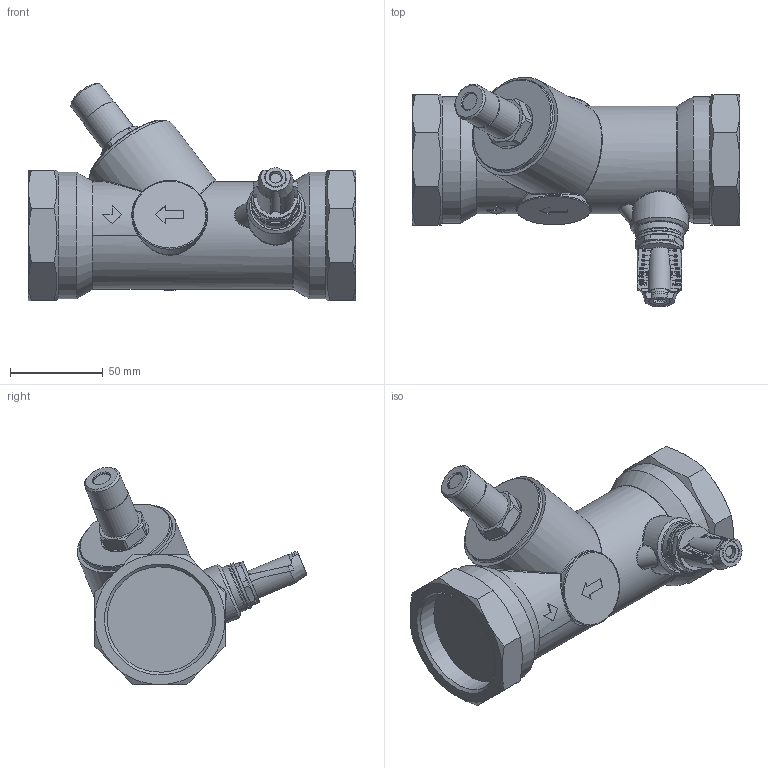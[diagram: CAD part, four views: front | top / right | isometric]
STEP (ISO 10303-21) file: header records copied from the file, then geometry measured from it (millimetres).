
FILE_DESCRIPTION(/* description */ (''),/* implementation_level */ '2;1');
FILE_NAME(/* name */ 'C:\Users\duckj\Desktop\10010162.stp',/* time_stamp */ '2019-04-12T11:52:04+02:00',/* author */ ('duckj'),/* organization */ (''),/* preprocessor_version */ 'ST-DEVELOPER v17',/* originating_system */ 'Autodesk Inventor 2018',/* authorisation */ '');
FILE_SCHEMA (('AUTOMOTIVE_DESIGN { 1 0 10303 214 3 1 1 }'));
Length unit declared in the file: millimetre
Products named in the file (2): WIDE90001130; WIDE90001132
Assembly tree (1 placements, depth 2):
  WIDE90001130
    WIDE90001132
Bounding box: 176 x 123.51 x 116.79 mm (x, y, z)
Volume: 591027.9 mm3; surface area: 60891.3 mm2
Topology: 1 solids, 1 shells, 330 faces, 1217 edges, 983 vertices
Faces by surface type: plane 210, cone 47, cylinder 43, bspline 17, sphere 7, torus 6
Full cylindrical faces by diameter (mm): 9.5 x1, 11 x1, 12 x1, 20 x1, 20.5 x1, 23.8 x1, 25.4 x1, 26 x2, 27 x1, 31 x1, 52 x1, 56 x1, 56.7 x2, 58 x1, 68 x2
Entity records: 15933 total; most frequent: CARTESIAN_POINT 5658, ORIENTED_EDGE 2434, DIRECTION 1569, EDGE_CURVE 1217, VERTEX_POINT 983, AXIS2_PLACEMENT_3D 568, B_SPLINE_CURVE_WITH_KNOTS 441, LINE 433
